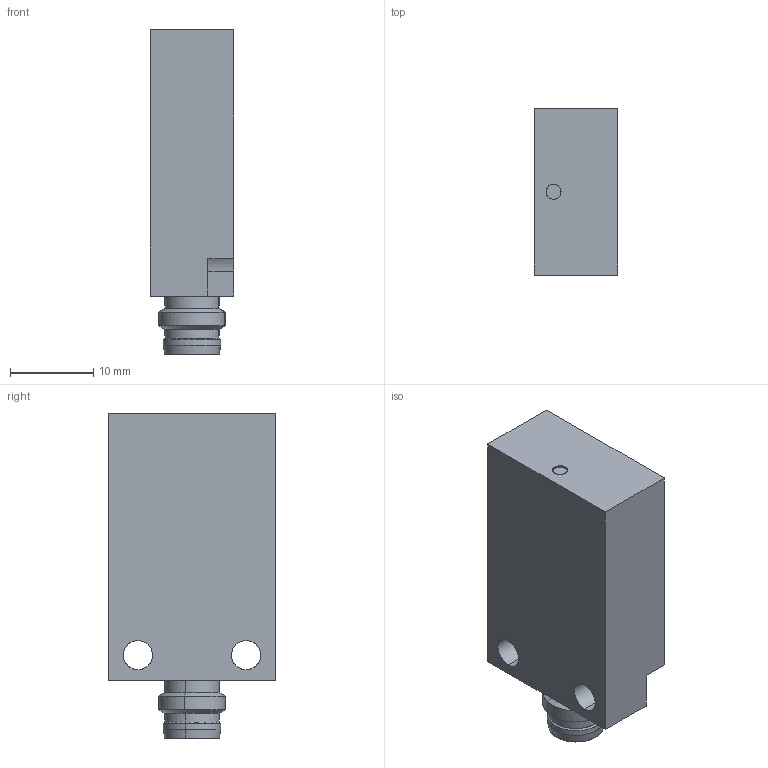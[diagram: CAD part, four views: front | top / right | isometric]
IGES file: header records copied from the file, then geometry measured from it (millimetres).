
Start section: Comment
Global section: file name: IFFM 20xxxA3_S35L.igs; native system:  By Spatial Corp.; preprocessor: XPlus GENERIC/IGES 3.0; author: Author; organization: Title; date: 20060328.142755; units: inch
Bounding box: 10 x 20 x 39 mm (x, y, z)
Surface area: 2809 mm2 (no closed solid volume)
Topology: 0 solids, 0 shells, 65 faces, 296 edges, 284 vertices
Faces by surface type: bspline 65
